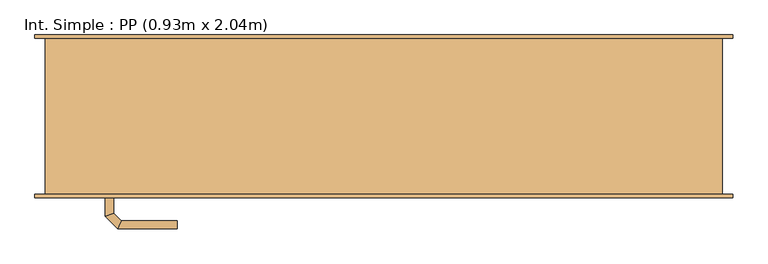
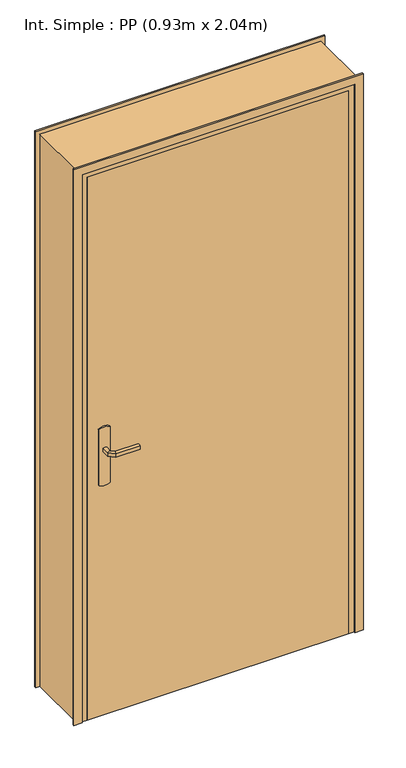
"""IFC4 building model written with IfcOpenShell, lengths in millimetres: door geometry, Int. Simple : PP (0.93m x 2.04m)."""

from ifc_helpers import new_model, si_unit, point, frame, frame_2d, origin, origin_with_axes, place, context, project, spatial, polyline, circle_curve, ellipse_curve, trimmed, segment, composite_curve, outline, extrude, faceted_brep, source, transform, mapped, element, save
from ifc_brep_helpers import plane_surface, cylinder_surface, advanced_brep


def int_simple_pp_0_93m_x_2_04m_3c3404e0(model_context):
    return source(origin(), model_context, "Body", "SolidModel", [
        extrude(outline(composite_curve([segment(trimmed(circle_curve(frame_2d((904.6410162, -440.0)), 40.0), [point((870.0, -460.0))], [point((870.0, -420.0))], False, "CARTESIAN"), True, "CONTINUOUS"), segment(polyline([(870.0, -420.0), (1080.0, -420.0)]), True, "CONTINUOUS"), segment(trimmed(circle_curve(frame_2d((1045.3589838, -440.0)), 40.0), [point((1080.0, -420.0))], [point((1080.0, -460.0))], False, "CARTESIAN"), True, "CONTINUOUS"), segment(polyline([(1080.0, -460.0), (870.0, -460.0)]), True, "CONTINUOUS")], self_intersect=False)), frame((0.0, -120.0, 0.0), z_axis=(0.0, 1.0, 0.0), x_axis=(0.0, 0.0, 1.0)), (0.0, 0.0, 1.0), 5.0),
        extrude(outline(composite_curve([segment(trimmed(circle_curve(frame_2d((1045.3589838, -440.0)), 40.0), [point((1080.0, -420.0))], [point((1080.0, -460.0))], False, "CARTESIAN"), True, "CONTINUOUS"), segment(polyline([(1080.0, -460.0), (870.0, -460.0)]), True, "CONTINUOUS"), segment(trimmed(circle_curve(frame_2d((904.6410162, -440.0)), 40.0), [point((870.0, -460.0))], [point((870.0, -420.0))], False, "CARTESIAN"), True, "CONTINUOUS"), segment(polyline([(870.0, -420.0), (1080.0, -420.0)]), True, "CONTINUOUS")], self_intersect=False)), frame((0.0, -75.0, 0.0), z_axis=(0.0, 1.0, 0.0), x_axis=(0.0, 0.0, 1.0)), (0.0, 0.0, 1.0), 5.0),
        advanced_brep(
        [(-446.0, -120.0, 1007.0), (-434.0, -120.0, 1007.0), (-434.0, -120.0, 993.0), (-446.0, -120.0, 993.0), (-446.0, -147.6509507, 1007.0), (-434.0, -142.680388, 1007.0), (-434.0, -142.680388, 993.0), (-446.0, -147.6509507, 993.0), (-427.62279, -166.0281607, 1007.0), (-422.6522273, -154.0281607, 1007.0), (-422.6522273, -154.0281607, 993.0), (-427.62279, -166.0281607, 993.0), (-339.9813594, -166.0281607, 1007.0), (-339.9813594, -166.0281607, 993.0), (-339.9813594, -154.0281607, 993.0), (-339.9813594, -154.0281607, 1007.0)],
        [
            (0, 1, circle_curve(frame((-440.0, -120.0, 986.9542278), z_axis=(0.0, 1.0, 0.0), x_axis=(1.0, 0.0, 0.0)), 20.9244589)),
            (1, 2),
            (2, 3, circle_curve(frame((-440.0, -120.0, 1013.0457722), z_axis=(0.0, 1.0, 0.0), x_axis=(1.0, 0.0, 0.0)), 20.9244589)),
            (3, 0),
            (0, 4),
            (4, 5, ellipse_curve(frame((-440.0, -145.1656693, 986.9542278), z_axis=(-0.3826834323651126, 0.9238795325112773, 0.0), x_axis=(0.9238795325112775, 0.38268343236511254, 0.0)), 22.6484711, 20.9244589)),
            (5, 1),
            (5, 6),
            (6, 2),
            (6, 7, ellipse_curve(frame((-440.0, -145.1656693, 1013.0457722), z_axis=(-0.3826834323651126, 0.9238795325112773, 0.0), x_axis=(0.9238795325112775, 0.38268343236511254, 0.0)), 22.6484711, 20.9244589)),
            (7, 3),
            (7, 4),
            (4, 8),
            (8, 9, ellipse_curve(frame((-425.1375086, -160.0281607, 986.9542278), z_axis=(-0.9238795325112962, 0.38268343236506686, 0.0), x_axis=(0.3826834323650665, 0.9238795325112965, 0.0)), 22.6484711, 20.9244589)),
            (9, 5),
            (9, 10),
            (10, 6),
            (10, 11, ellipse_curve(frame((-425.1375086, -160.0281607, 1013.0457722), z_axis=(-0.9238795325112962, 0.38268343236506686, 0.0), x_axis=(0.3826834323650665, 0.9238795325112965, 0.0)), 22.6484711, 20.9244589)),
            (11, 7),
            (11, 8),
            (12, 13),
            (13, 14, circle_curve(frame((-339.9813594, -160.0281607, 1013.0457722), z_axis=(1.0, 0.0, 0.0), x_axis=(0.0, 1.0, 0.0)), 20.9244589)),
            (14, 15),
            (15, 12, circle_curve(frame((-339.9813594, -160.0281607, 986.9542278), z_axis=(1.0, 0.0, 0.0), x_axis=(0.0, 1.0, 0.0)), 20.9244589)),
            (8, 12),
            (15, 9),
            (14, 10),
            (13, 11),
        ],
        [
            plane_surface(frame((-449.2195445, -120.0, 1000.0), z_axis=(0.0, 1.0, 0.0), x_axis=(0.0, 0.0, -1.0))),
            cylinder_surface(frame((-440.0, -120.0, 986.9542278), z_axis=(0.0, 1.0, 0.0), x_axis=(1.0, 0.0, 0.0)), 20.9244589),
            plane_surface(frame((-434.0, -120.0, 1007.0), z_axis=(1.0, 0.0, 0.0), x_axis=(0.0, -1.0, 0.0))),
            cylinder_surface(frame((-440.0, -120.0, 1013.0457722), z_axis=(0.0, 1.0, 0.0), x_axis=(1.0, 0.0, 0.0)), 20.9244589),
            plane_surface(frame((-446.0, -120.0, 993.0), z_axis=(-1.0, 0.0, 0.0), x_axis=(0.0, -1.0, 0.0))),
            cylinder_surface(frame((-440.0, -145.1656693, 986.9542278), z_axis=(-0.7071067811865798, 0.7071067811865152, 0.0), x_axis=(0.7071067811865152, 0.7071067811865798, 0.0)), 20.9244589),
            plane_surface(frame((-434.0, -142.680388, 1007.0), z_axis=(0.7071067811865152, 0.7071067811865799, 0.0), x_axis=(0.7071067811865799, -0.7071067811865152, 0.0))),
            cylinder_surface(frame((-440.0, -145.1656693, 1013.0457722), z_axis=(-0.7071067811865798, 0.7071067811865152, 0.0), x_axis=(0.7071067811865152, 0.7071067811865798, 0.0)), 20.9244589),
            plane_surface(frame((-446.0, -147.6509507, 993.0), z_axis=(-0.7071067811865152, -0.7071067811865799, 0.0), x_axis=(0.7071067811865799, -0.7071067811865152, 0.0))),
            plane_surface(frame((-339.9813594, -160.0281607, 990.7804555), z_axis=(1.0, 0.0, 0.0), x_axis=(0.0, 1.0, 0.0))),
            cylinder_surface(frame((-425.1375086, -160.0281607, 986.9542278), z_axis=(-1.0, 0.0, 0.0), x_axis=(0.0, 1.0, 0.0)), 20.9244589),
            plane_surface(frame((-422.6522273, -154.0281607, 1007.0), z_axis=(0.0, 1.0, 0.0), x_axis=(1.0, 0.0, 0.0))),
            cylinder_surface(frame((-425.1375086, -160.0281607, 1013.0457722), z_axis=(-1.0, 0.0, 0.0), x_axis=(0.0, 1.0, 0.0)), 20.9244589),
            plane_surface(frame((-427.62279, -166.0281607, 993.0), z_axis=(0.0, -1.0, 0.0), x_axis=(1.0, 0.0, 0.0))),
        ],
        [
            (0, [[1, 2, 3, 4]]),
            (1, [[-1, 5, 6, 7]]),
            (2, [[-2, -7, 8, 9]]),
            (3, [[-3, -9, 10, 11]]),
            (4, [[-4, -11, 12, -5]]),
            (5, [[-6, 13, 14, 15]]),
            (6, [[-8, -15, 16, 17]]),
            (7, [[-10, -17, 18, 19]]),
            (8, [[-12, -19, 20, -13]]),
            (9, [[21, 22, 23, 24]]),
            (10, [[-14, 25, -24, 26]]),
            (11, [[-16, -26, -23, 27]]),
            (12, [[-18, -27, -22, 28]]),
            (13, [[-20, -28, -21, -25]]),
        ],
    ),
        advanced_brep(
        [(-434.0, -70.0, 993.0), (-434.0, -70.0, 1007.0), (-446.0, -70.0, 1007.0), (-446.0, -70.0, 993.0), (-434.0, -47.5147955, 993.0), (-434.0, -47.5147955, 1007.0), (-446.0, -42.5442327, 1007.0), (-446.0, -42.5442327, 993.0), (-422.5147186, -36.0295141, 993.0), (-422.5147186, -36.0295141, 1007.0), (-427.4852814, -24.0295141, 1007.0), (-427.4852814, -24.0295141, 993.0), (-339.9542163, -36.0295141, 993.0), (-339.9542163, -24.0295141, 993.0), (-339.9542163, -24.0295141, 1007.0), (-339.9542163, -36.0295141, 1007.0)],
        [
            (0, 1),
            (1, 2, circle_curve(frame((-440.0, -70.0, 986.9542278), z_axis=(0.0, -1.0, 0.0), x_axis=(-1.0, 0.0, 0.0)), 20.9244589)),
            (2, 3),
            (3, 0, circle_curve(frame((-440.0, -70.0, 1013.0457722), z_axis=(0.0, -1.0, 0.0), x_axis=(-1.0, 0.0, 0.0)), 20.9244589)),
            (0, 4),
            (4, 5),
            (5, 1),
            (5, 6, ellipse_curve(frame((-440.0, -45.0295141, 986.9542278), z_axis=(-0.3826834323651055, -0.9238795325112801, 0.0), x_axis=(0.9238795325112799, -0.3826834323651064, 0.0)), 22.6484711, 20.9244589)),
            (6, 2),
            (6, 7),
            (7, 3),
            (7, 4, ellipse_curve(frame((-440.0, -45.0295141, 1013.0457722), z_axis=(-0.3826834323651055, -0.9238795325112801, 0.0), x_axis=(0.9238795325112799, -0.3826834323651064, 0.0)), 22.6484711, 20.9244589)),
            (4, 8),
            (8, 9),
            (9, 5),
            (9, 10, ellipse_curve(frame((-425.0, -30.0295141, 986.9542278), z_axis=(-0.9238795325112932, -0.382683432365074, 0.0), x_axis=(0.3826834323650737, -0.9238795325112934, 0.0)), 22.6484711, 20.9244589)),
            (10, 6),
            (10, 11),
            (11, 7),
            (11, 8, ellipse_curve(frame((-425.0, -30.0295141, 1013.0457722), z_axis=(-0.9238795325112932, -0.382683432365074, 0.0), x_axis=(0.3826834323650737, -0.9238795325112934, 0.0)), 22.6484711, 20.9244589)),
            (12, 13, circle_curve(frame((-339.9542163, -30.0295141, 1013.0457722), z_axis=(1.0, 0.0, 0.0), x_axis=(0.0, 1.0, 0.0)), 20.9244589)),
            (13, 14),
            (14, 15, circle_curve(frame((-339.9542163, -30.0295141, 986.9542278), z_axis=(1.0, 0.0, 0.0), x_axis=(0.0, 1.0, 0.0)), 20.9244589)),
            (15, 12),
            (8, 12),
            (15, 9),
            (14, 10),
            (13, 11),
        ],
        [
            plane_surface(frame((-449.2195445, -70.0, 1000.0), z_axis=(0.0, -1.0, 0.0), x_axis=(0.0, 0.0, 1.0))),
            plane_surface(frame((-434.0, -70.0, 993.0), z_axis=(1.0, 0.0, 0.0), x_axis=(0.0, 1.0, 0.0))),
            cylinder_surface(frame((-440.0, -70.0, 986.9542278), z_axis=(0.0, -1.0, 0.0), x_axis=(-1.0, 0.0, 0.0)), 20.9244589),
            plane_surface(frame((-446.0, -70.0, 1007.0), z_axis=(-1.0, 0.0, 0.0), x_axis=(0.0, 1.0, 0.0))),
            cylinder_surface(frame((-440.0, -70.0, 1013.0457722), z_axis=(0.0, -1.0, 0.0), x_axis=(-1.0, 0.0, 0.0)), 20.9244589),
            plane_surface(frame((-434.0, -47.5147955, 993.0), z_axis=(0.7071067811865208, -0.7071067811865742, 0.0), x_axis=(0.7071067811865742, 0.7071067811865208, 0.0))),
            cylinder_surface(frame((-440.0, -45.0295141, 986.9542278), z_axis=(-0.7071067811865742, -0.7071067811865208, 0.0), x_axis=(-0.7071067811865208, 0.7071067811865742, 0.0)), 20.9244589),
            plane_surface(frame((-446.0, -42.5442327, 1007.0), z_axis=(-0.7071067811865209, 0.7071067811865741, 0.0), x_axis=(0.7071067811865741, 0.7071067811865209, 0.0))),
            cylinder_surface(frame((-440.0, -45.0295141, 1013.0457722), z_axis=(-0.7071067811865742, -0.7071067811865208, 0.0), x_axis=(-0.7071067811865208, 0.7071067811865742, 0.0)), 20.9244589),
            plane_surface(frame((-339.9542163, -30.0295141, 990.7804555), z_axis=(1.0, 0.0, 0.0), x_axis=(0.0, 1.0, 0.0))),
            plane_surface(frame((-422.5147186, -36.0295141, 993.0), z_axis=(0.0, -1.0, 0.0), x_axis=(1.0, 0.0, 0.0))),
            cylinder_surface(frame((-425.0, -30.0295141, 986.9542278), z_axis=(-1.0, 0.0, 0.0), x_axis=(0.0, 1.0, 0.0)), 20.9244589),
            plane_surface(frame((-427.4852814, -24.0295141, 1007.0), z_axis=(0.0, 1.0, 0.0), x_axis=(1.0, 0.0, 0.0))),
            cylinder_surface(frame((-425.0, -30.0295141, 1013.0457722), z_axis=(-1.0, 0.0, 0.0), x_axis=(0.0, 1.0, 0.0)), 20.9244589),
        ],
        [
            (0, [[1, 2, 3, 4]]),
            (1, [[-1, 5, 6, 7]]),
            (2, [[-2, -7, 8, 9]]),
            (3, [[-3, -9, 10, 11]]),
            (4, [[-4, -11, 12, -5]]),
            (5, [[-6, 13, 14, 15]]),
            (6, [[-8, -15, 16, 17]]),
            (7, [[-10, -17, 18, 19]]),
            (8, [[-12, -19, 20, -13]]),
            (9, [[21, 22, 23, 24]]),
            (10, [[-14, 25, -24, 26]]),
            (11, [[-16, -26, -23, 27]]),
            (12, [[-18, -27, -22, 28]]),
            (13, [[-20, -28, -21, -25]]),
        ],
    ),
        extrude(outline(polyline([(-500.0, -75.0), (430.0, -75.0), (430.0, -115.0), (-500.0, -115.0), (-500.0, -75.0)])), origin_with_axes(), (0.0, 0.0, 1.0), 2040.0),
        faceted_brep([(-535.0, -115.0, 0.0), (-535.0, 115.0, 0.0), (-485.0, 115.0, 0.0), (-485.0, -75.0, 0.0), (-500.0, -75.0, 0.0), (-500.0, -115.0, 0.0), (-535.0, -115.0, 2075.0), (-535.0, 115.0, 2075.0), (465.0, 115.0, 2075.0), (465.0, 115.0, 0.0), (415.0, 115.0, 0.0), (415.0, 115.0, 2025.0), (-485.0, 115.0, 2025.0), (-485.0, -75.0, 2025.0), (415.0, -75.0, 2025.0), (415.0, -75.0, 0.0), (430.0, -75.0, 0.0), (430.0, -75.0, 2040.0), (-500.0, -75.0, 2040.0), (-500.0, -115.0, 2040.0), (430.0, -115.0, 2040.0), (430.0, -115.0, 0.0), (465.0, -115.0, 0.0), (465.0, -115.0, 2075.0)], [[[0, 1, 2, 3, 4, 5]], [[1, 0, 6, 7]], [[2, 1, 7, 8, 9, 10, 11, 12]], [[3, 2, 12, 13]], [[4, 3, 13, 14, 15, 16, 17, 18]], [[5, 4, 18, 19]], [[0, 5, 19, 20, 21, 22, 23, 6]], [[8, 23, 22, 9]], [[22, 21, 16, 15, 10, 9]], [[14, 11, 10, 15]], [[20, 17, 16, 21]], [[7, 6, 23, 8]], [[13, 12, 11, 14]], [[19, 18, 17, 20]]]),
        extrude(outline(polyline([(0.0, -550.0), (0.0, -520.0), (2060.0, -520.0), (2060.0, 450.0), (0.0, 450.0), (0.0, 480.0), (2090.0, 480.0), (2090.0, -550.0), (0.0, -550.0)])), frame((0.0, -120.0, 0.0), z_axis=(0.0, 1.0, 0.0), x_axis=(0.0, 0.0, 1.0)), (0.0, 0.0, 1.0), 5.0),
        extrude(outline(polyline([(0.0, -550.0), (0.0, -520.0), (2060.0, -520.0), (2060.0, 450.0), (0.0, 450.0), (0.0, 480.0), (2090.0, 480.0), (2090.0, -550.0), (0.0, -550.0)])), frame((0.0, 115.0, 0.0), z_axis=(0.0, 1.0, 0.0), x_axis=(0.0, 0.0, 1.0)), (0.0, 0.0, 1.0), 5.0),
    ])


if __name__ == "__main__":
    model = new_model("IFC4")
    model_context = context("Model", 3, world=origin())
    ifc_project = project(units=[si_unit("LENGTHUNIT", "METRE", prefix="MILLI")], contexts=[model_context])
    site = spatial("IfcSite", under=ifc_project)
    building = spatial("IfcBuilding", under=site)
    placement = place(None, origin())
    int_simple_pp_0_93m_x_2_04m_shape = int_simple_pp_0_93m_x_2_04m_3c3404e0(model_context)
    element("IfcDoor", 1, ObjectType="Int. Simple : PP (0.93m x 2.04m)", at=placement, inside=building, context=model_context, shape_type="MappedRepresentation", body=[
        mapped(int_simple_pp_0_93m_x_2_04m_shape, transform((0.0, 0.0, 0.0), x_axis=(1.0, 0.0, 0.0), y_axis=(0.0, 1.0, 0.0), z_axis=(0.0, 0.0, 1.0))),
    ])
    save(model, "model.ifc")
